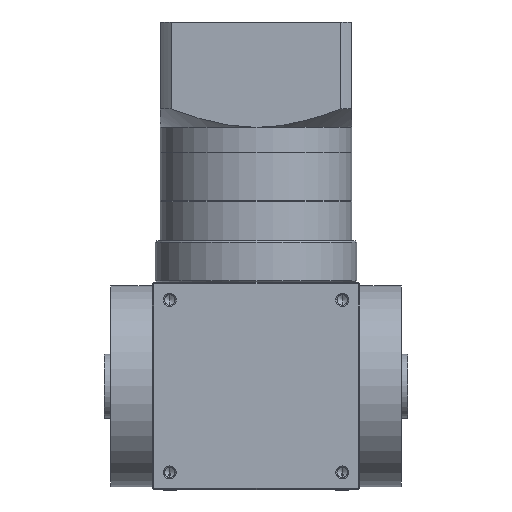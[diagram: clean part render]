
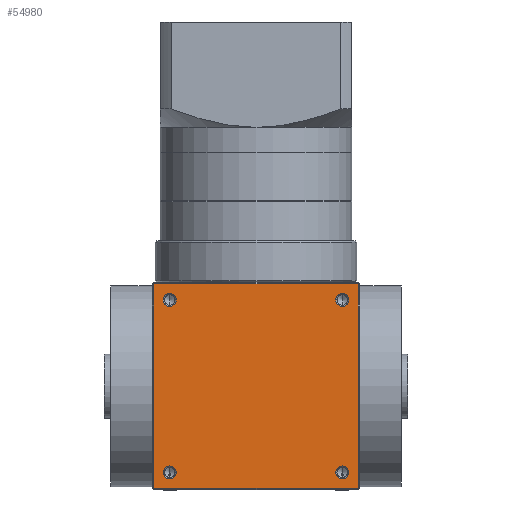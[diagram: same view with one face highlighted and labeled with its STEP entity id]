
A CAD part, front view. The second image highlights one B-rep face of the part: STEP entity #54980.
In plain terms, the highlighted planar face has unit normal (0, -1, 0).
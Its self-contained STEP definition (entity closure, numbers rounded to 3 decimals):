
#32 = VERTEX_POINT ( 'NONE', #29140 ) ;
#256 = VECTOR ( 'NONE', #8032, 1000. ) ;
#323 = CARTESIAN_POINT ( 'NONE',  ( -27., -32.5, 61.525 ) ) ;
#477 = VERTEX_POINT ( 'NONE', #53282 ) ;
#555 = EDGE_CURVE ( 'NONE', #6502, #12036, #35969, .T. ) ;
#842 = AXIS2_PLACEMENT_3D ( 'NONE', #42624, #17027, #46938 ) ;
#1715 = CIRCLE ( 'NONE', #43435, 2.025 ) ;
#2646 = CIRCLE ( 'NONE', #28512, 2.025 ) ;
#2876 = DIRECTION ( 'NONE',  ( 0., -1., 0. ) ) ;
#3233 = DIRECTION ( 'NONE',  ( 0., -1., 0. ) ) ;
#3897 = VERTEX_POINT ( 'NONE', #42780 ) ;
#4621 = EDGE_CURVE ( 'NONE', #5716, #477, #13581, .T. ) ;
#5400 = FACE_BOUND ( 'NONE', #9424, .T. ) ;
#5716 = VERTEX_POINT ( 'NONE', #55416 ) ;
#5953 = LINE ( 'NONE', #14792, #15927 ) ;
#6502 = VERTEX_POINT ( 'NONE', #31506 ) ;
#6743 = FACE_BOUND ( 'NONE', #24212, .T. ) ;
#6902 = CARTESIAN_POINT ( 'NONE',  ( 27., -32.5, 59.5 ) ) ;
#7218 = EDGE_CURVE ( 'NONE', #32, #53861, #22780, .T. ) ;
#7717 = EDGE_CURVE ( 'NONE', #20647, #3897, #2646, .T. ) ;
#8032 = DIRECTION ( 'NONE',  ( 1., 0., 0. ) ) ;
#8813 = ORIENTED_EDGE ( 'NONE', *, *, #41040, .F. ) ;
#9424 = EDGE_LOOP ( 'NONE', ( #14168, #8813 ) ) ;
#9904 = VERTEX_POINT ( 'NONE', #15600 ) ;
#10071 = CARTESIAN_POINT ( 'NONE',  ( 32., -32.5, 64.5 ) ) ;
#10142 = CIRCLE ( 'NONE', #842, 2.025 ) ;
#10586 = ORIENTED_EDGE ( 'NONE', *, *, #37971, .F. ) ;
#11165 = DIRECTION ( 'NONE',  ( 0., -1., 0. ) ) ;
#11173 = DIRECTION ( 'NONE',  ( 0., 0., -1. ) ) ;
#11198 = ORIENTED_EDGE ( 'NONE', *, *, #4621, .F. ) ;
#11301 = DIRECTION ( 'NONE',  ( 0., 1., 0. ) ) ;
#11621 = DIRECTION ( 'NONE',  ( -1., 0., 0. ) ) ;
#12036 = VERTEX_POINT ( 'NONE', #13235 ) ;
#13235 = CARTESIAN_POINT ( 'NONE',  ( -32., -32.5, 64.5 ) ) ;
#13581 = CIRCLE ( 'NONE', #52735, 2.025 ) ;
#14168 = ORIENTED_EDGE ( 'NONE', *, *, #7218, .F. ) ;
#14432 = EDGE_LOOP ( 'NONE', ( #53562, #25604, #23262, #52944 ) ) ;
#14792 = CARTESIAN_POINT ( 'NONE',  ( 32., -32.5, 65. ) ) ;
#15046 = ORIENTED_EDGE ( 'NONE', *, *, #34186, .F. ) ;
#15224 = CARTESIAN_POINT ( 'NONE',  ( -27., -32.5, 59.5 ) ) ;
#15600 = CARTESIAN_POINT ( 'NONE',  ( 32., -32.5, 0.5 ) ) ;
#15613 = AXIS2_PLACEMENT_3D ( 'NONE', #20190, #50124, #24512 ) ;
#15831 = EDGE_CURVE ( 'NONE', #23649, #31001, #1715, .T. ) ;
#15927 = VECTOR ( 'NONE', #44730, 1000. ) ;
#16741 = FACE_BOUND ( 'NONE', #32486, .T. ) ;
#17027 = DIRECTION ( 'NONE',  ( 0., -1., 0. ) ) ;
#17971 = EDGE_CURVE ( 'NONE', #9904, #6502, #48327, .T. ) ;
#18092 = FACE_BOUND ( 'NONE', #41670, .T. ) ;
#18203 = DIRECTION ( 'NONE',  ( 0., -1., 0. ) ) ;
#19549 = DIRECTION ( 'NONE',  ( 0., 0., -1. ) ) ;
#20190 = CARTESIAN_POINT ( 'NONE',  ( -27., -32.5, 59.5 ) ) ;
#20235 = CARTESIAN_POINT ( 'NONE',  ( -27., -32.5, 7.525 ) ) ;
#20647 = VERTEX_POINT ( 'NONE', #32018 ) ;
#22780 = CIRCLE ( 'NONE', #53550, 2.025 ) ;
#23235 = VECTOR ( 'NONE', #54417, 1000. ) ;
#23262 = ORIENTED_EDGE ( 'NONE', *, *, #17971, .F. ) ;
#23649 = VERTEX_POINT ( 'NONE', #30993 ) ;
#24212 = EDGE_LOOP ( 'NONE', ( #24996, #10586 ) ) ;
#24512 = DIRECTION ( 'NONE',  ( 0., 0., -1. ) ) ;
#24996 = ORIENTED_EDGE ( 'NONE', *, *, #15831, .F. ) ;
#25585 = VECTOR ( 'NONE', #11621, 1000. ) ;
#25604 = ORIENTED_EDGE ( 'NONE', *, *, #555, .F. ) ;
#25696 = LINE ( 'NONE', #46162, #256 ) ;
#28056 = ORIENTED_EDGE ( 'NONE', *, *, #33742, .F. ) ;
#28512 = AXIS2_PLACEMENT_3D ( 'NONE', #28531, #2876, #32837 ) ;
#28531 = CARTESIAN_POINT ( 'NONE',  ( 27., -32.5, 5.5 ) ) ;
#28840 = CARTESIAN_POINT ( 'NONE',  ( -32., -32.5, 65. ) ) ;
#28882 = CARTESIAN_POINT ( 'NONE',  ( -27., -32.5, 5.5 ) ) ;
#29140 = CARTESIAN_POINT ( 'NONE',  ( -27., -32.5, 3.475 ) ) ;
#29496 = FACE_OUTER_BOUND ( 'NONE', #14432, .T. ) ;
#30993 = CARTESIAN_POINT ( 'NONE',  ( -27., -32.5, 57.475 ) ) ;
#31001 = VERTEX_POINT ( 'NONE', #323 ) ;
#31506 = CARTESIAN_POINT ( 'NONE',  ( -32., -32.5, 0.5 ) ) ;
#32018 = CARTESIAN_POINT ( 'NONE',  ( 27., -32.5, 3.475 ) ) ;
#32486 = EDGE_LOOP ( 'NONE', ( #53604, #15046 ) ) ;
#32631 = AXIS2_PLACEMENT_3D ( 'NONE', #28882, #3233, #33189 ) ;
#32837 = DIRECTION ( 'NONE',  ( 0., 0., -1. ) ) ;
#33189 = DIRECTION ( 'NONE',  ( 0., 0., -1. ) ) ;
#33742 = EDGE_CURVE ( 'NONE', #477, #5716, #50307, .T. ) ;
#34186 = EDGE_CURVE ( 'NONE', #3897, #20647, #10142, .T. ) ;
#34455 = CIRCLE ( 'NONE', #32631, 2.025 ) ;
#35658 = EDGE_CURVE ( 'NONE', #50186, #9904, #5953, .T. ) ;
#35969 = LINE ( 'NONE', #28840, #23235 ) ;
#36818 = CARTESIAN_POINT ( 'NONE',  ( -27., -32.5, 5.5 ) ) ;
#36828 = DIRECTION ( 'NONE',  ( 0., -1., 0. ) ) ;
#36961 = PLANE ( 'NONE',  #40383 ) ;
#37971 = EDGE_CURVE ( 'NONE', #31001, #23649, #46089, .T. ) ;
#40383 = AXIS2_PLACEMENT_3D ( 'NONE', #49663, #11301, #41216 ) ;
#41040 = EDGE_CURVE ( 'NONE', #53861, #32, #34455, .T. ) ;
#41078 = DIRECTION ( 'NONE',  ( 0., 0., -1. ) ) ;
#41216 = DIRECTION ( 'NONE',  ( 0., 0., 1. ) ) ;
#41560 = EDGE_CURVE ( 'NONE', #12036, #50186, #25696, .T. ) ;
#41670 = EDGE_LOOP ( 'NONE', ( #11198, #28056 ) ) ;
#42624 = CARTESIAN_POINT ( 'NONE',  ( 27., -32.5, 5.5 ) ) ;
#42780 = CARTESIAN_POINT ( 'NONE',  ( 27., -32.5, 7.525 ) ) ;
#43083 = AXIS2_PLACEMENT_3D ( 'NONE', #43827, #18203, #48136 ) ;
#43435 = AXIS2_PLACEMENT_3D ( 'NONE', #15224, #45146, #19549 ) ;
#43827 = CARTESIAN_POINT ( 'NONE',  ( 27., -32.5, 59.5 ) ) ;
#44730 = DIRECTION ( 'NONE',  ( 0., 0., -1. ) ) ;
#45146 = DIRECTION ( 'NONE',  ( 0., -1., 0. ) ) ;
#46089 = CIRCLE ( 'NONE', #15613, 2.025 ) ;
#46162 = CARTESIAN_POINT ( 'NONE',  ( -32.5, -32.5, 64.5 ) ) ;
#46938 = DIRECTION ( 'NONE',  ( 0., 0., -1. ) ) ;
#48136 = DIRECTION ( 'NONE',  ( 0., 0., -1. ) ) ;
#48327 = LINE ( 'NONE', #49961, #25585 ) ;
#49663 = CARTESIAN_POINT ( 'NONE',  ( -32.5, -32.5, 65. ) ) ;
#49961 = CARTESIAN_POINT ( 'NONE',  ( -32.5, -32.5, 0.5 ) ) ;
#50124 = DIRECTION ( 'NONE',  ( 0., -1., 0. ) ) ;
#50186 = VERTEX_POINT ( 'NONE', #10071 ) ;
#50307 = CIRCLE ( 'NONE', #43083, 2.025 ) ;
#52735 = AXIS2_PLACEMENT_3D ( 'NONE', #6902, #36828, #11173 ) ;
#52944 = ORIENTED_EDGE ( 'NONE', *, *, #35658, .F. ) ;
#53282 = CARTESIAN_POINT ( 'NONE',  ( 27., -32.5, 61.525 ) ) ;
#53550 = AXIS2_PLACEMENT_3D ( 'NONE', #36818, #11165, #41078 ) ;
#53562 = ORIENTED_EDGE ( 'NONE', *, *, #41560, .F. ) ;
#53604 = ORIENTED_EDGE ( 'NONE', *, *, #7717, .F. ) ;
#53861 = VERTEX_POINT ( 'NONE', #20235 ) ;
#54417 = DIRECTION ( 'NONE',  ( 0., 0., 1. ) ) ;
#54980 = ADVANCED_FACE ( 'NONE', ( #6743, #18092, #16741, #5400, #29496 ), #36961, .F. ) ;
#55416 = CARTESIAN_POINT ( 'NONE',  ( 27., -32.5, 57.475 ) ) ;
